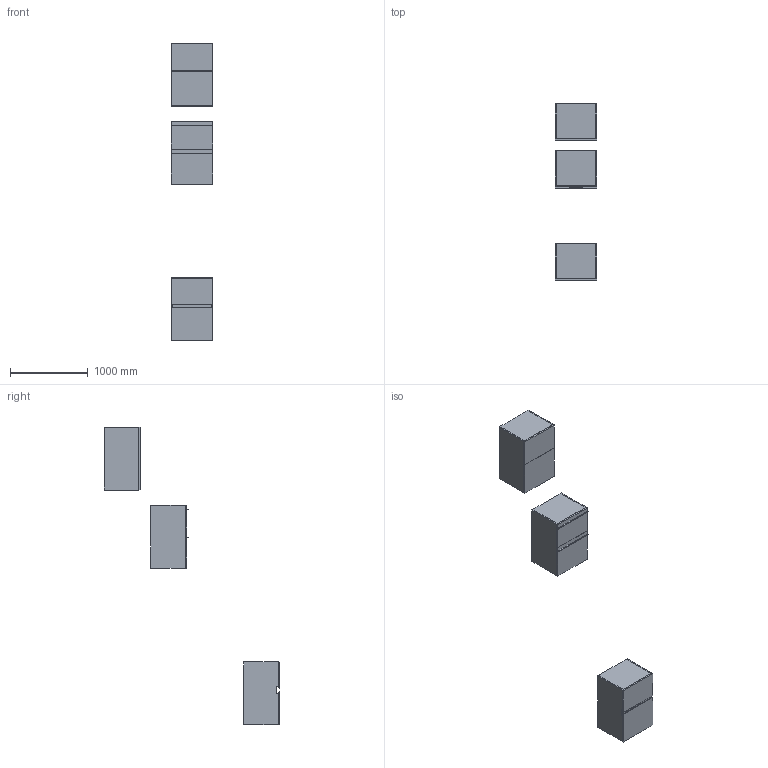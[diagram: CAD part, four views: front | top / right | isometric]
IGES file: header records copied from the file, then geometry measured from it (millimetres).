
Start section: Data from Parasolid IGES Translator 19.0.9, Copyright(c) 2006 Siemens PL M Software. All Rights Reserved.
Global section: file name: noorth-SI-H 81,2 D 47 W 54_8708.igs; native system: By Siemens PLM Incorporated; preprocessor: XPlus GENERIC/IGES 19.0.9; author: Noname; organization: Noname; date: 20200601.134419; units: metre
Bounding box: 540 x 2270 x 3842 mm (x, y, z)
Volume: 85012870.5 mm3; surface area: 12914218 mm2
Topology: 24 solids, 24 shells, 248 faces, 544 edges, 324 vertices
Faces by surface type: plane 164, extrusion 36, bspline 32, cylinder 16
